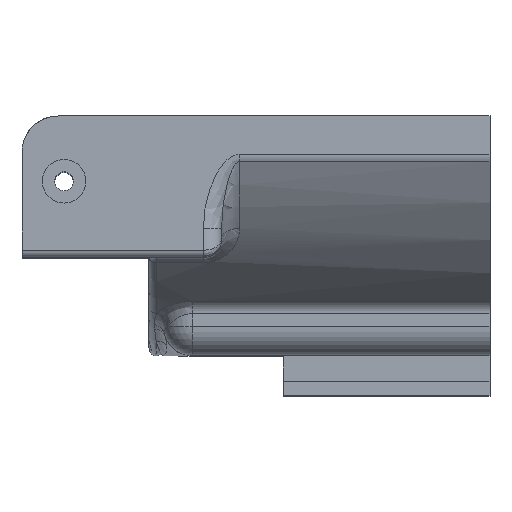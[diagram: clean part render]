
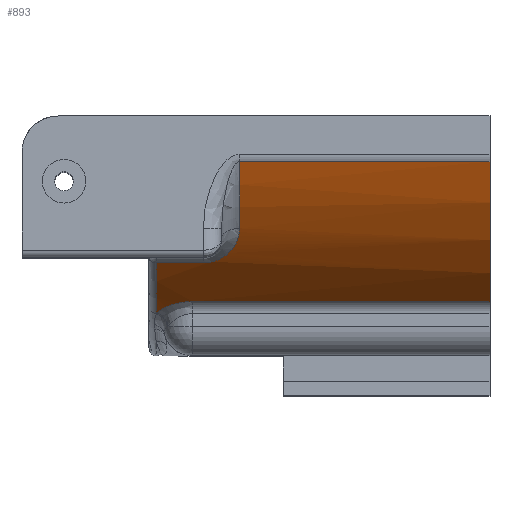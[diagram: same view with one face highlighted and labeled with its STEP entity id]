
A CAD part, top view. The second image highlights one B-rep face of the part: STEP entity #893.
In plain terms, the highlighted cylindrical face has radius 89 mm (diameter 178 mm), a partial arc.
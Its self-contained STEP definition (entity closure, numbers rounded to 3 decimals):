
#36 = DIRECTION ( 'NONE',  ( -1., 0., 0. ) ) ;
#49 = EDGE_CURVE ( 'NONE', #2134, #221, #1624, .T. ) ;
#199 = CARTESIAN_POINT ( 'NONE',  ( 15., -63.436, 62.425 ) ) ;
#211 = CARTESIAN_POINT ( 'NONE',  ( 200., -35.569, 81.583 ) ) ;
#215 = CARTESIAN_POINT ( 'NONE',  ( 25., -35.569, 81.583 ) ) ;
#221 = VERTEX_POINT ( 'NONE', #3870 ) ;
#232 = CARTESIAN_POINT ( 'NONE',  ( 23.198, -59.421, 66.261 ) ) ;
#285 = VERTEX_POINT ( 'NONE', #2677 ) ;
#316 = AXIS2_PLACEMENT_3D ( 'NONE', #2682, #3659, #1422 ) ;
#329 = DIRECTION ( 'NONE',  ( 0., 0., 1. ) ) ;
#478 = EDGE_LOOP ( 'NONE', ( #2859, #861, #2594, #601, #2425, #2670, #2646, #1156 ) ) ;
#513 = CARTESIAN_POINT ( 'NONE',  ( 15.375, -63.436, 62.425 ) ) ;
#518 = DIRECTION ( 'NONE',  ( 0., 0., -1. ) ) ;
#543 = CARTESIAN_POINT ( 'NONE',  ( 25., -54.561, 70.319 ) ) ;
#571 = DIRECTION ( 'NONE',  ( 0., 0., 1. ) ) ;
#601 = ORIENTED_EDGE ( 'NONE', *, *, #2286, .T. ) ;
#668 = EDGE_CURVE ( 'NONE', #1183, #2134, #1033, .T. ) ;
#830 = CARTESIAN_POINT ( 'NONE',  ( 24.718, -56.272, 68.956 ) ) ;
#834 = CARTESIAN_POINT ( 'NONE',  ( 2., 0., 0. ) ) ;
#856 = CARTESIAN_POINT ( 'NONE',  ( 25., 0., 0. ) ) ;
#861 = ORIENTED_EDGE ( 'NONE', *, *, #2144, .T. ) ;
#893 = ADVANCED_FACE ( 'NONE', ( #2184 ), #1404, .T. ) ;
#942 = CARTESIAN_POINT ( 'NONE',  ( 3.141, -76.433, 45.603 ) ) ;
#1021 = VERTEX_POINT ( 'NONE', #1805 ) ;
#1033 = CIRCLE ( 'NONE', #3625, 89. ) ;
#1122 = CARTESIAN_POINT ( 'NONE',  ( 23.679, -58.68, 66.916 ) ) ;
#1149 = CARTESIAN_POINT ( 'NONE',  ( 25., -53.968, 70.77 ) ) ;
#1156 = ORIENTED_EDGE ( 'NONE', *, *, #668, .T. ) ;
#1183 = VERTEX_POINT ( 'NONE', #2216 ) ;
#1260 = CARTESIAN_POINT ( 'NONE',  ( 8.499, -74.431, 48.796 ) ) ;
#1262 = CARTESIAN_POINT ( 'NONE',  ( 200., 0., 0. ) ) ;
#1272 = CARTESIAN_POINT ( 'NONE',  ( 6.642, -74.891, 48.087 ) ) ;
#1287 = CARTESIAN_POINT ( 'NONE',  ( 5.785, -75.179, 47.636 ) ) ;
#1404 = CYLINDRICAL_SURFACE ( 'NONE', #2285, 89. ) ;
#1422 = DIRECTION ( 'NONE',  ( 0., 0., -1. ) ) ;
#1450 = CARTESIAN_POINT ( 'NONE',  ( 16.483, -63.338, 62.524 ) ) ;
#1583 = CARTESIAN_POINT ( 'NONE',  ( 200., -74.108, 49.285 ) ) ;
#1596 = EDGE_CURVE ( 'NONE', #285, #2246, #2086, .T. ) ;
#1624 = B_SPLINE_CURVE_WITH_KNOTS ( 'NONE', 3,
 ( #3787, #3436, #942, #1908, #3819, #4086, #1287, #1272, #3128, #3480, #1260, #1898, #3168, #2820 ),
 .UNSPECIFIED., .F., .F.,
 ( 4, 2, 2, 2, 2, 2, 4 ),
 ( 0.001, 0.004, 0.005, 0.007, 0.008, 0.01, 0.013 ),
 .UNSPECIFIED. ) ;
#1674 = EDGE_CURVE ( 'NONE', #2722, #1183, #3561, .T. ) ;
#1788 = CARTESIAN_POINT ( 'NONE',  ( 21.966, -60.768, 65.026 ) ) ;
#1802 = VECTOR ( 'NONE', #2412, 1000. ) ;
#1805 = CARTESIAN_POINT ( 'NONE',  ( 25., -53.968, 70.77 ) ) ;
#1811 = CARTESIAN_POINT ( 'NONE',  ( 15., -63.436, 62.425 ) ) ;
#1814 = CARTESIAN_POINT ( 'NONE',  ( 18.588, -62.831, 63.035 ) ) ;
#1845 = DIRECTION ( 'NONE',  ( 1., 0., 0. ) ) ;
#1872 = VERTEX_POINT ( 'NONE', #215 ) ;
#1894 = CARTESIAN_POINT ( 'NONE',  ( 2., -77.278, 44.149 ) ) ;
#1898 = CARTESIAN_POINT ( 'NONE',  ( 9.966, -74.192, 49.16 ) ) ;
#1908 = CARTESIAN_POINT ( 'NONE',  ( 4.203, -75.861, 46.543 ) ) ;
#2074 = CARTESIAN_POINT ( 'NONE',  ( 24.553, -56.826, 68.5 ) ) ;
#2086 = CIRCLE ( 'NONE', #316, 89. ) ;
#2104 = CARTESIAN_POINT ( 'NONE',  ( 24.223, -57.639, 67.815 ) ) ;
#2134 = VERTEX_POINT ( 'NONE', #1894 ) ;
#2144 = EDGE_CURVE ( 'NONE', #221, #2246, #2674, .T. ) ;
#2146 = CARTESIAN_POINT ( 'NONE',  ( 200., -63.436, 62.425 ) ) ;
#2184 = FACE_OUTER_BOUND ( 'NONE', #478, .T. ) ;
#2216 = CARTESIAN_POINT ( 'NONE',  ( 2., -63.436, 62.425 ) ) ;
#2246 = VERTEX_POINT ( 'NONE', #2570 ) ;
#2285 = AXIS2_PLACEMENT_3D ( 'NONE', #1262, #36, #329 ) ;
#2286 = EDGE_CURVE ( 'NONE', #285, #1872, #3658, .T. ) ;
#2294 = EDGE_CURVE ( 'NONE', #1872, #1021, #2426, .T. ) ;
#2412 = DIRECTION ( 'NONE',  ( -1., 0., 0. ) ) ;
#2424 = CARTESIAN_POINT ( 'NONE',  ( 23.827, -58.427, 67.138 ) ) ;
#2425 = ORIENTED_EDGE ( 'NONE', *, *, #2294, .T. ) ;
#2426 = CIRCLE ( 'NONE', #3753, 89. ) ;
#2489 = DIRECTION ( 'NONE',  ( 1., 0., 0. ) ) ;
#2570 = CARTESIAN_POINT ( 'NONE',  ( 94., -74.108, 49.285 ) ) ;
#2594 = ORIENTED_EDGE ( 'NONE', *, *, #1596, .F. ) ;
#2646 = ORIENTED_EDGE ( 'NONE', *, *, #1674, .T. ) ;
#2670 = ORIENTED_EDGE ( 'NONE', *, *, #3497, .F. ) ;
#2674 = LINE ( 'NONE', #1583, #2768 ) ;
#2677 = CARTESIAN_POINT ( 'NONE',  ( 94., -35.569, 81.583 ) ) ;
#2682 = CARTESIAN_POINT ( 'NONE',  ( 94., 0., 0. ) ) ;
#2700 = CARTESIAN_POINT ( 'NONE',  ( 17.917, -63.051, 62.814 ) ) ;
#2711 = CARTESIAN_POINT ( 'NONE',  ( 22.828, -59.89, 65.837 ) ) ;
#2722 = VERTEX_POINT ( 'NONE', #1811 ) ;
#2768 = VECTOR ( 'NONE', #2489, 1000. ) ;
#2820 = CARTESIAN_POINT ( 'NONE',  ( 12., -74.108, 49.285 ) ) ;
#2859 = ORIENTED_EDGE ( 'NONE', *, *, #49, .T. ) ;
#3003 = DIRECTION ( 'NONE',  ( 1., 0., 0. ) ) ;
#3014 = CARTESIAN_POINT ( 'NONE',  ( 15.746, -63.416, 62.445 ) ) ;
#3032 = DIRECTION ( 'NONE',  ( -1., 0., 0. ) ) ;
#3128 = CARTESIAN_POINT ( 'NONE',  ( 7.087, -74.761, 48.289 ) ) ;
#3168 = CARTESIAN_POINT ( 'NONE',  ( 10.969, -74.108, 49.285 ) ) ;
#3342 = CARTESIAN_POINT ( 'NONE',  ( 24.942, -55.14, 69.865 ) ) ;
#3358 = CARTESIAN_POINT ( 'NONE',  ( 24.099, -57.907, 67.587 ) ) ;
#3436 = CARTESIAN_POINT ( 'NONE',  ( 2.527, -76.844, 44.909 ) ) ;
#3480 = CARTESIAN_POINT ( 'NONE',  ( 8.014, -74.531, 48.643 ) ) ;
#3497 = EDGE_CURVE ( 'NONE', #2722, #1021, #3551, .T. ) ;
#3551 = B_SPLINE_CURVE_WITH_KNOTS ( 'NONE', 3,
 ( #199, #513, #3014, #1450, #4022, #2700, #1814, #3993, #4005, #3641, #3701, #1788, #3665, #2711, #232, #1122, #2424, #3358, #2104, #2074, #830, #3342, #543, #1149 ),
 .UNSPECIFIED., .F., .F.,
 ( 4, 2, 2, 2, 2, 2, 2, 2, 2, 2, 2, 4 ),
 ( 0., 0.001, 0.002, 0.004, 0.007, 0.008, 0.009, 0.011, 0.012, 0.013, 0.016, 0.018 ),
 .UNSPECIFIED. ) ;
#3561 = LINE ( 'NONE', #2146, #1802 ) ;
#3625 = AXIS2_PLACEMENT_3D ( 'NONE', #834, #3003, #518 ) ;
#3641 = CARTESIAN_POINT ( 'NONE',  ( 21.231, -61.38, 64.448 ) ) ;
#3658 = LINE ( 'NONE', #211, #4013 ) ;
#3659 = DIRECTION ( 'NONE',  ( 1., 0., 0. ) ) ;
#3665 = CARTESIAN_POINT ( 'NONE',  ( 22.192, -60.553, 65.226 ) ) ;
#3701 = CARTESIAN_POINT ( 'NONE',  ( 21.485, -61.182, 64.636 ) ) ;
#3753 = AXIS2_PLACEMENT_3D ( 'NONE', #856, #1845, #571 ) ;
#3787 = CARTESIAN_POINT ( 'NONE',  ( 2., -77.278, 44.149 ) ) ;
#3819 = CARTESIAN_POINT ( 'NONE',  ( 4.583, -75.677, 46.841 ) ) ;
#3870 = CARTESIAN_POINT ( 'NONE',  ( 12., -74.108, 49.285 ) ) ;
#3993 = CARTESIAN_POINT ( 'NONE',  ( 19.859, -62.27, 63.59 ) ) ;
#4005 = CARTESIAN_POINT ( 'NONE',  ( 20.436, -61.939, 63.912 ) ) ;
#4013 = VECTOR ( 'NONE', #3032, 1000. ) ;
#4022 = CARTESIAN_POINT ( 'NONE',  ( 16.85, -63.279, 62.584 ) ) ;
#4086 = CARTESIAN_POINT ( 'NONE',  ( 5.373, -75.337, 47.387 ) ) ;
